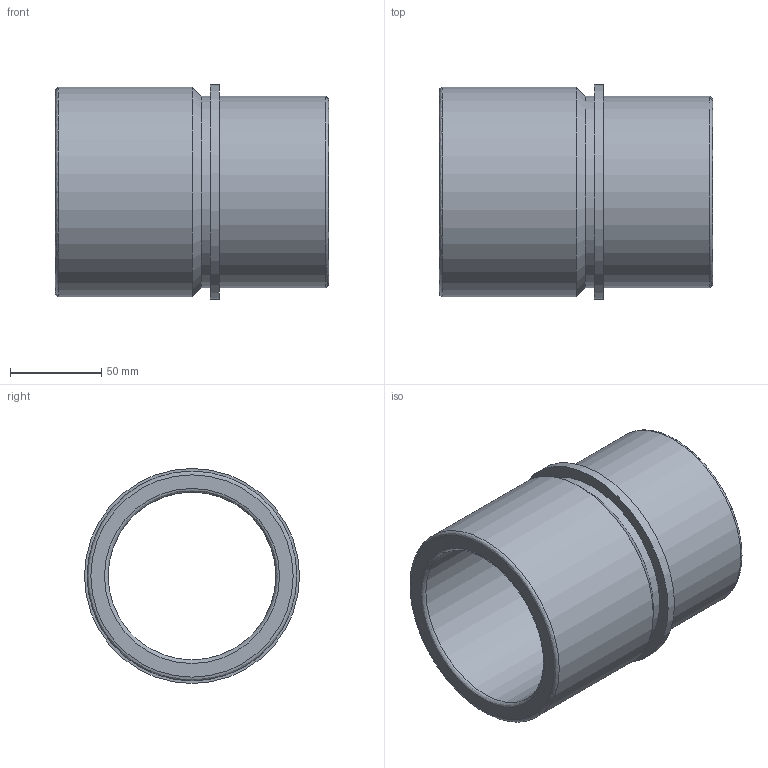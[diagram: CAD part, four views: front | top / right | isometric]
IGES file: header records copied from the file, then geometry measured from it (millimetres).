
Start section: Data from Parasolid IGES Translator 20.0.26, Copyright(c) 2006 Siemens P LM Software. All Rights Reserved.
Global section: file name: WZ - 4053 80 x 150 - 92.igs; native system: By Siemens PLM Incorporated; preprocessor: XPlus GENERIC/IGES 20.0.26; author: Noname; organization: Noname; date: 20201206.144647; units: millimetre
Bounding box: 150 x 118 x 118 mm (x, y, z)
Surface area: 105403.7 mm2 (no closed solid volume)
Topology: 0 solids, 0 shells, 14 faces, 52 edges, 37 vertices
Faces by surface type: revolution 10, extrusion 4
